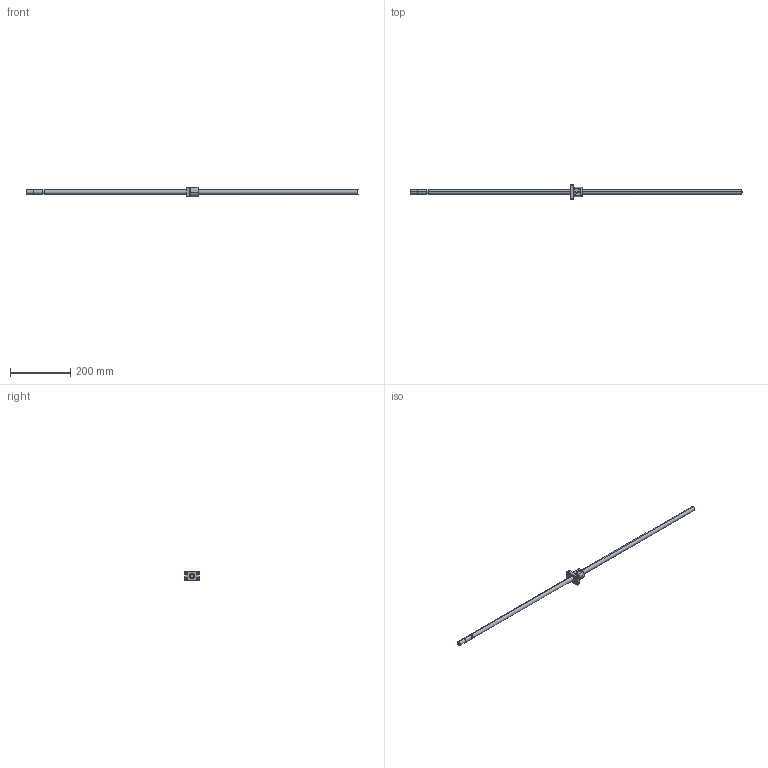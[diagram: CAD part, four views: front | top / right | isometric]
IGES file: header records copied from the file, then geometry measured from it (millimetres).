
Global section: file name: No Iges File Name specified; native system: AutoDesk Inventor R10; preprocessor: AutoDesk Inventor Iges Exporter R10; author: No Author specified; organization: No Organization specified; date: 20101224.140407; units: millimetre
Bounding box: 1100 x 48 x 32 mm (x, y, z)
Surface area: 62793.5 mm2 (no closed solid volume)
Topology: 0 solids, 0 shells, 133 faces, 944 edges, 944 vertices
Faces by surface type: bspline 133
